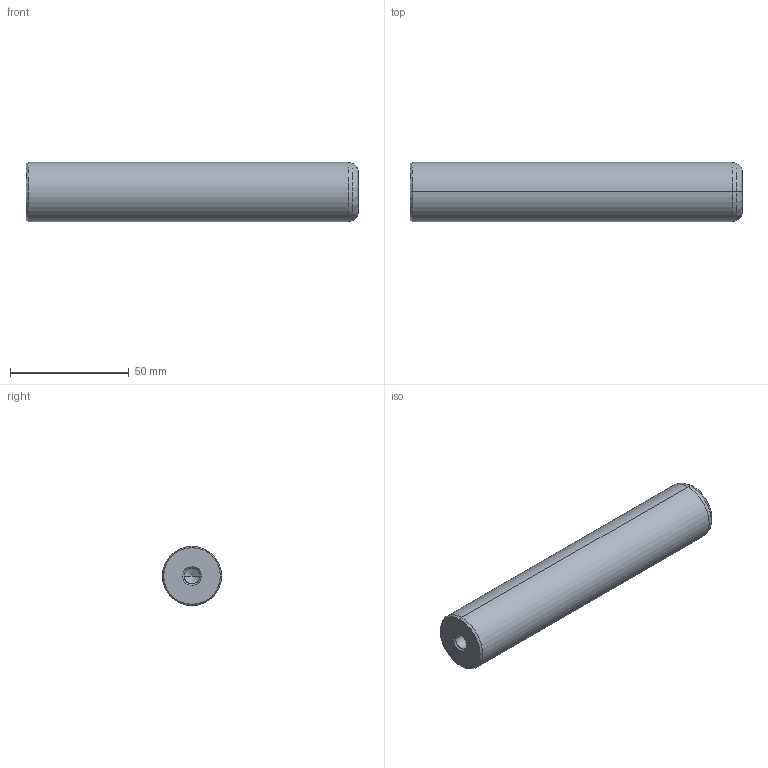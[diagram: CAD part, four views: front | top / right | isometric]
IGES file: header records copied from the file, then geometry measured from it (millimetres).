
Start section: START RECORD GO HERE.
Global section: file name: 720-25x140.igs; native system: DASSAULT SYSTEMES CATIA V5 R20 - www.3ds.com; preprocessor: CATIA Version 5 Release 20 ; author: Utente; organization: NB04-ASUS; date: 20210101.134407; units: millimetre
Bounding box: 140 x 25 x 25 mm (x, y, z)
Surface area: 12806.2 mm2 (no closed solid volume)
Topology: 0 solids, 0 shells, 22 faces, 120 edges, 116 vertices
Faces by surface type: revolution 20, plane 2
